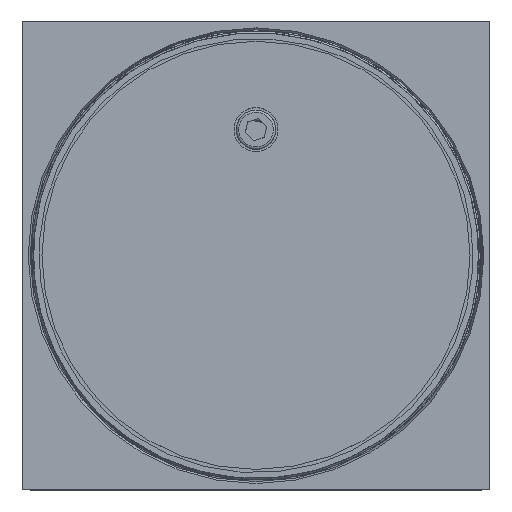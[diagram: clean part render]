
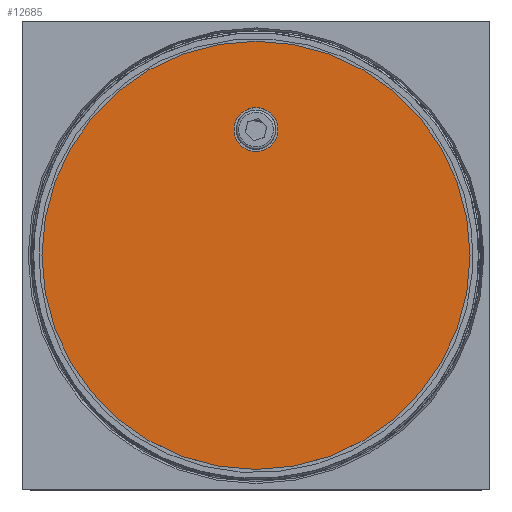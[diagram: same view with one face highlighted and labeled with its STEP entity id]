
A CAD part, top view. The second image highlights one B-rep face of the part: STEP entity #12685.
In plain terms, the highlighted planar face has unit normal (0, 0, 1).
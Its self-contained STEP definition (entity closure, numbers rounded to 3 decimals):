
#493=FACE_BOUND('',#2388,.T.);
#676=PLANE('',#14246);
#1599=FACE_OUTER_BOUND('',#2387,.T.);
#2387=EDGE_LOOP('',(#10228));
#2388=EDGE_LOOP('',(#10229));
#4987=CIRCLE('',#14224,5.6);
#4998=CIRCLE('',#14244,54.5);
#6002=VERTEX_POINT('',#25261);
#6013=VERTEX_POINT('',#25299);
#7509=EDGE_CURVE('',#6002,#6002,#4987,.T.);
#7527=EDGE_CURVE('',#6013,#6013,#4998,.T.);
#10228=ORIENTED_EDGE('',*,*,#7527,.T.);
#10229=ORIENTED_EDGE('',*,*,#7509,.T.);
#12685=ADVANCED_FACE('',(#1599,#493),#676,.T.);
#14224=AXIS2_PLACEMENT_3D('',#25262,#16838,#16839);
#14244=AXIS2_PLACEMENT_3D('',#25300,#16885,#16886);
#14246=AXIS2_PLACEMENT_3D('',#25303,#16890,#16891);
#16838=DIRECTION('center_axis',(0.,0.,-1.));
#16839=DIRECTION('ref_axis',(1.,0.,0.));
#16885=DIRECTION('center_axis',(0.,0.,1.));
#16886=DIRECTION('ref_axis',(1.,0.,0.));
#16890=DIRECTION('center_axis',(0.,0.,1.));
#16891=DIRECTION('ref_axis',(1.,0.,0.));
#25261=CARTESIAN_POINT('',(-5.6,32.,2.5));
#25262=CARTESIAN_POINT('Origin',(0.,32.,2.5));
#25299=CARTESIAN_POINT('',(-54.5,0.,2.5));
#25300=CARTESIAN_POINT('Origin',(0.,0.,2.5));
#25303=CARTESIAN_POINT('Origin',(0.,0.,2.5));
